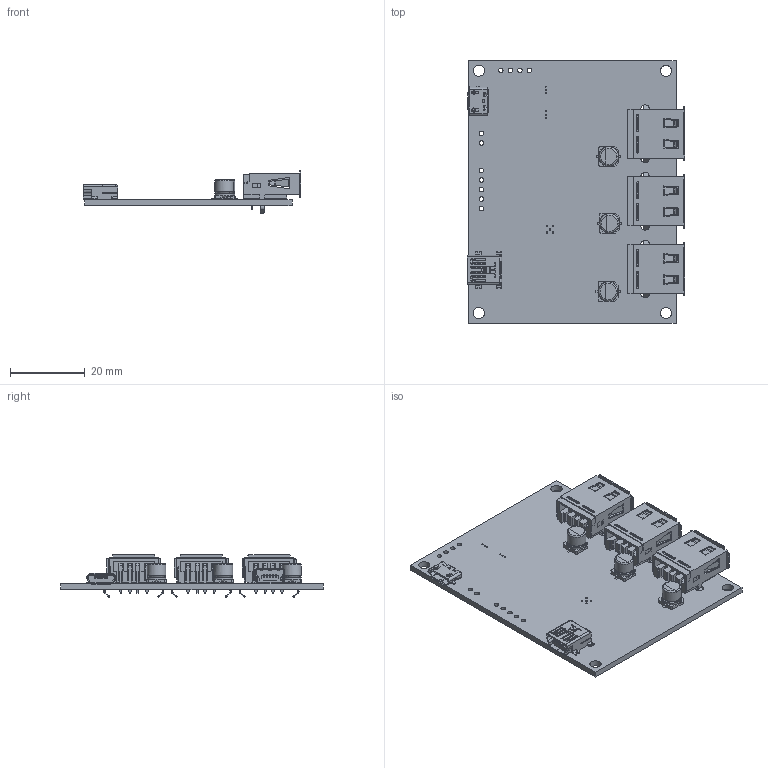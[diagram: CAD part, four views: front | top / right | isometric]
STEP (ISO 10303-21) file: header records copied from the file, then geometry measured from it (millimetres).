
FILE_DESCRIPTION(('FreeCAD Model'),'2;1');
FILE_NAME('/home/paulo/ykush.step','2019-02-25T22:12:05',('Author'),('') ,'Open CASCADE STEP processor 7.3','FreeCAD','Unknown');
FILE_SCHEMA(('AUTOMOTIVE_DESIGN { 1 0 10303 214 1 1 1 1 }'));
Length unit declared in the file: millimetre
Products named in the file (14): YKUSH; Board_Geoms; Pcb; PCB_Sketch; Step_Models; Top; C22_CP_Elec_5x53_58AF1F3F; C23_CP_Elec_5x53_58AF1F4D; C24_CP_Elec_5x53_58AF1F5B; J1_676430910_58AF1F9A; J2_676430910_58AF1FA7; J3_676430910_58AF1FB4[2]; P1_USB_Micro-B_Molex_47346-0001_58AF1FC6; P5_USB_Mini-B_Lumberg_2486_01_Horizontal_58AF1FEC
Assembly tree (13 placements, depth 4):
  YKUSH
    Board_Geoms
      Pcb
      PCB_Sketch
    Step_Models
      Top
        C22_CP_Elec_5x53_58AF1F3F
        C23_CP_Elec_5x53_58AF1F4D
        C24_CP_Elec_5x53_58AF1F5B
        J1_676430910_58AF1F9A
        J2_676430910_58AF1FA7
        J3_676430910_58AF1FB4[2]
        P1_USB_Micro-B_Molex_47346-0001_58AF1FC6
        P5_USB_Mini-B_Lumberg_2486_01_Horizontal_58AF1FEC
Bounding box: 58.06 x 70 x 11.43 mm (x, y, z)
Volume: 8464.5 mm3; surface area: 15821.6 mm2
Topology: 9 solids, 9 shells, 2628 faces, 7686 edges, 4996 vertices
Faces by surface type: plane 1792, cylinder 743, bspline 72, torus 14, sphere 4, revolution 3
Full cylindrical faces by diameter (mm): 0.3 x6, 0.4 x5, 0.8 x2, 0.9 x2, 0.92 x12, 1.2 x11, 2.3 x6, 3 x4, 5 x6
Entity records: 107646 total; most frequent: CARTESIAN_POINT 18830, ORIENTED_EDGE 15356, DIRECTION 13950, EDGE_CURVE 7678, LINE 5961, VECTOR 5961, VERTEX_POINT 4988, AXIS2_PLACEMENT_3D 3993
